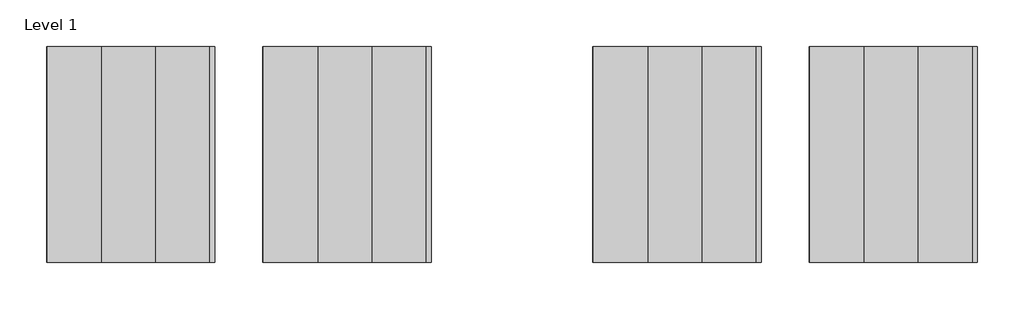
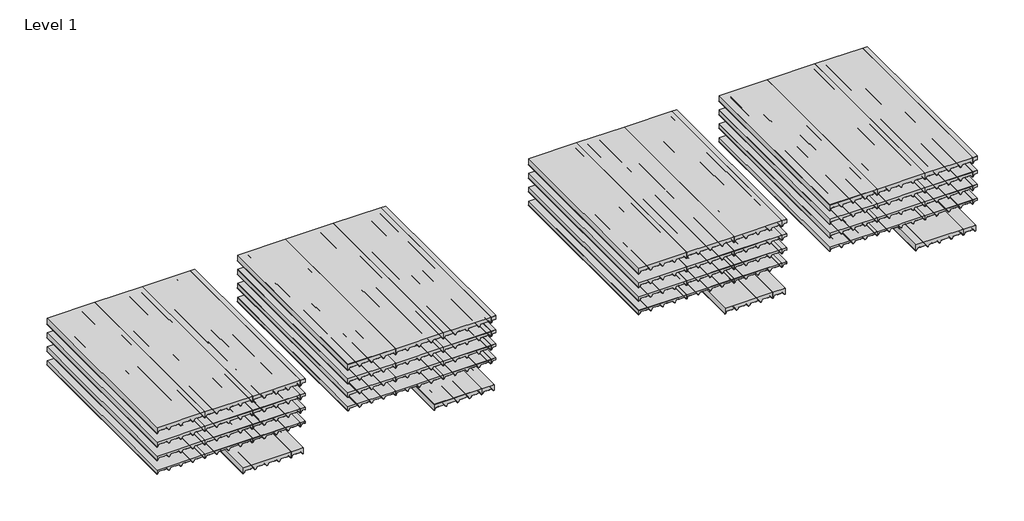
# One storey: 72 plates.
"""IFC4 building model written with IfcOpenShell, lengths in millimetres."""

from ifc_helpers import new_model, si_unit, origin, place, context, project, spatial, transform, mapped, element, save
from components import cubierta_deck_curtain_panel_pvc_9965c7ad, cubierta_deck_curtain_panel_pvc_f810d4f0, cubierta_deck_curtain_panel_pvc_c78e96fc, cubierta_deck_curtain_panel_pvc_4e866324, cubierta_deck_curtain_panel_pvc_440a0394, cubierta_deck_curtain_panel_pvc_e19e9fe5, cubierta_deck_curtain_panel_pvc_17cb436e, cubierta_deck_curtain_panel_pvc_dbc530cd, cubierta_deck_curtain_panel_pvc_6be13019, cubierta_deck_curtain_panel_pvc_baeb70c4

model = new_model("IFC4")

# Units and contexts
model_context = context("Model", 3, world=origin())
ifc_project = project(units=[si_unit("LENGTHUNIT", "METRE", prefix="MILLI")], contexts=[model_context])

# Site, building, storey
site = spatial("IfcSite", under=ifc_project)
building = spatial("IfcBuilding", under=site)
storey = spatial("IfcBuildingStorey", under=building, Name="Level 1", Elevation=0.0)

# Plates
placement = place(None, origin())
cubierta_deck_curtain_panel_pvc_shape = cubierta_deck_curtain_panel_pvc_9965c7ad(model_context)
element("IfcPlate", 1, ObjectType="Cubierta-Deck_Curtain-Panel-PVC : ACH_Cubierta-Deck_MW_80 mm", at=placement, inside=storey, context=model_context, shape_type="MappedRepresentation", body=[
    mapped(cubierta_deck_curtain_panel_pvc_shape, transform((-5418.7651938, -3830.5491567, 500.0), x_axis=(1.0, 0.0, 0.0), y_axis=(0.0, 0.0, -1.0), z_axis=(0.0, 1.0, 0.0))),
])
element("IfcPlate", 2, ObjectType="Cubierta-Deck_Curtain-Panel-PVC : ACH_Cubierta-Deck_MW_80 mm", at=placement, inside=storey, context=model_context, shape_type="MappedRepresentation", body=[
    mapped(cubierta_deck_curtain_panel_pvc_shape, transform((-4418.7651938, -3830.5491567, 500.0), x_axis=(1.0, 0.0, 0.0), y_axis=(0.0, 0.0, -1.0), z_axis=(0.0, 1.0, 0.0))),
])
element("IfcPlate", 3, ObjectType="Cubierta-Deck_Curtain-Panel-PVC : ACH_Cubierta-Deck_MW_80 mm", at=placement, inside=storey, context=model_context, shape_type="MappedRepresentation", body=[
    mapped(cubierta_deck_curtain_panel_pvc_shape, transform((-3418.7651938, -3830.5491567, 500.0), x_axis=(1.0, 0.0, 0.0), y_axis=(0.0, 0.0, -1.0), z_axis=(0.0, 1.0, 0.0))),
])
cubierta_deck_curtain_panel_pvc_2_shape = cubierta_deck_curtain_panel_pvc_f810d4f0(model_context)
element("IfcPlate", 4, ObjectType="Cubierta-Deck_Curtain-Panel-PVC : ACH_Cubierta-Deck_MW_80 mm", at=placement, inside=storey, context=model_context, shape_type="MappedRepresentation", body=[
    mapped(cubierta_deck_curtain_panel_pvc_2_shape, transform((-2868.7651938, -3830.5491567, 500.0), x_axis=(1.0, 0.0, 0.0), y_axis=(0.0, 0.0, -1.0), z_axis=(0.0, 1.0, 0.0))),
])
cubierta_deck_curtain_panel_pvc_3_shape = cubierta_deck_curtain_panel_pvc_c78e96fc(model_context)
element("IfcPlate", 5, ObjectType="Cubierta-Deck_Curtain-Panel-PVC : ACH_Cubierta-Deck_MW_60 mm", at=placement, inside=storey, context=model_context, shape_type="MappedRepresentation", body=[
    mapped(cubierta_deck_curtain_panel_pvc_3_shape, transform((-5418.7651938, -3830.5491567, 200.0), x_axis=(1.0, 0.0, 0.0), y_axis=(0.0, 0.0, -1.0), z_axis=(0.0, 1.0, 0.0))),
])
element("IfcPlate", 6, ObjectType="Cubierta-Deck_Curtain-Panel-PVC : ACH_Cubierta-Deck_MW_60 mm", at=placement, inside=storey, context=model_context, shape_type="MappedRepresentation", body=[
    mapped(cubierta_deck_curtain_panel_pvc_3_shape, transform((-4418.7651938, -3830.5491567, 200.0), x_axis=(1.0, 0.0, 0.0), y_axis=(0.0, 0.0, -1.0), z_axis=(0.0, 1.0, 0.0))),
])
element("IfcPlate", 7, ObjectType="Cubierta-Deck_Curtain-Panel-PVC : ACH_Cubierta-Deck_MW_60 mm", at=placement, inside=storey, context=model_context, shape_type="MappedRepresentation", body=[
    mapped(cubierta_deck_curtain_panel_pvc_3_shape, transform((-3418.7651938, -3830.5491567, 200.0), x_axis=(1.0, 0.0, 0.0), y_axis=(0.0, 0.0, -1.0), z_axis=(0.0, 1.0, 0.0))),
])
cubierta_deck_curtain_panel_pvc_4_shape = cubierta_deck_curtain_panel_pvc_4e866324(model_context)
element("IfcPlate", 8, ObjectType="Cubierta-Deck_Curtain-Panel-PVC : ACH_Cubierta-Deck_MW_60 mm", at=placement, inside=storey, context=model_context, shape_type="MappedRepresentation", body=[
    mapped(cubierta_deck_curtain_panel_pvc_4_shape, transform((-2868.7651938, -3830.5491567, 200.0), x_axis=(1.0, 0.0, 0.0), y_axis=(0.0, 0.0, -1.0), z_axis=(0.0, 1.0, 0.0))),
])
cubierta_deck_curtain_panel_pvc_5_shape = cubierta_deck_curtain_panel_pvc_440a0394(model_context)
element("IfcPlate", 9, ObjectType="Cubierta-Deck_Curtain-Panel-PVC : ACH_Cubierta-Deck_MW_50 mm", at=placement, inside=storey, context=model_context, shape_type="MappedRepresentation", body=[
    mapped(cubierta_deck_curtain_panel_pvc_5_shape, transform((-5418.7651938, -3830.5491567, -100.0), x_axis=(1.0, 0.0, 0.0), y_axis=(0.0, 0.0, -1.0), z_axis=(0.0, 1.0, 0.0))),
])
element("IfcPlate", 10, ObjectType="Cubierta-Deck_Curtain-Panel-PVC : ACH_Cubierta-Deck_MW_50 mm", at=placement, inside=storey, context=model_context, shape_type="MappedRepresentation", body=[
    mapped(cubierta_deck_curtain_panel_pvc_5_shape, transform((-4418.7651938, -3830.5491567, -100.0), x_axis=(1.0, 0.0, 0.0), y_axis=(0.0, 0.0, -1.0), z_axis=(0.0, 1.0, 0.0))),
])
element("IfcPlate", 11, ObjectType="Cubierta-Deck_Curtain-Panel-PVC : ACH_Cubierta-Deck_MW_50 mm", at=placement, inside=storey, context=model_context, shape_type="MappedRepresentation", body=[
    mapped(cubierta_deck_curtain_panel_pvc_5_shape, transform((-3418.7651938, -3830.5491567, -100.0), x_axis=(1.0, 0.0, 0.0), y_axis=(0.0, 0.0, -1.0), z_axis=(0.0, 1.0, 0.0))),
])
cubierta_deck_curtain_panel_pvc_6_shape = cubierta_deck_curtain_panel_pvc_e19e9fe5(model_context)
element("IfcPlate", 12, ObjectType="Cubierta-Deck_Curtain-Panel-PVC : ACH_Cubierta-Deck_MW_50 mm", at=placement, inside=storey, context=model_context, shape_type="MappedRepresentation", body=[
    mapped(cubierta_deck_curtain_panel_pvc_6_shape, transform((-2868.7651938, -3830.5491567, -100.0), x_axis=(1.0, 0.0, 0.0), y_axis=(0.0, 0.0, -1.0), z_axis=(0.0, 1.0, 0.0))),
])
cubierta_deck_curtain_panel_pvc_7_shape = cubierta_deck_curtain_panel_pvc_17cb436e(model_context)
element("IfcPlate", 13, ObjectType="Cubierta-Deck_Curtain-Panel-PVC : ACH_Cubierta-Deck_MW_40 mm", at=placement, inside=storey, context=model_context, shape_type="MappedRepresentation", body=[
    mapped(cubierta_deck_curtain_panel_pvc_7_shape, transform((-5418.7651938, -3830.5491567, -400.0), x_axis=(1.0, 0.0, 0.0), y_axis=(0.0, 0.0, -1.0), z_axis=(0.0, 1.0, 0.0))),
])
element("IfcPlate", 14, ObjectType="Cubierta-Deck_Curtain-Panel-PVC : ACH_Cubierta-Deck_MW_40 mm", at=placement, inside=storey, context=model_context, shape_type="MappedRepresentation", body=[
    mapped(cubierta_deck_curtain_panel_pvc_7_shape, transform((-4418.7651938, -3830.5491567, -400.0), x_axis=(1.0, 0.0, 0.0), y_axis=(0.0, 0.0, -1.0), z_axis=(0.0, 1.0, 0.0))),
])
element("IfcPlate", 15, ObjectType="Cubierta-Deck_Curtain-Panel-PVC : ACH_Cubierta-Deck_MW_40 mm", at=placement, inside=storey, context=model_context, shape_type="MappedRepresentation", body=[
    mapped(cubierta_deck_curtain_panel_pvc_7_shape, transform((-3418.7651938, -3830.5491567, -400.0), x_axis=(1.0, 0.0, 0.0), y_axis=(0.0, 0.0, -1.0), z_axis=(0.0, 1.0, 0.0))),
])
cubierta_deck_curtain_panel_pvc_8_shape = cubierta_deck_curtain_panel_pvc_dbc530cd(model_context)
element("IfcPlate", 16, ObjectType="Cubierta-Deck_Curtain-Panel-PVC : ACH_Cubierta-Deck_MW_40 mm", at=placement, inside=storey, context=model_context, shape_type="MappedRepresentation", body=[
    mapped(cubierta_deck_curtain_panel_pvc_8_shape, transform((-2868.7651938, -3830.5491567, -400.0), x_axis=(1.0, 0.0, 0.0), y_axis=(0.0, 0.0, -1.0), z_axis=(0.0, 1.0, 0.0))),
])
cubierta_deck_curtain_panel_pvc_9_shape = cubierta_deck_curtain_panel_pvc_6be13019(model_context)
element("IfcPlate", 17, ObjectType="Cubierta-Deck_Curtain-Panel-PVC : ACH_Cubierta-Deck_MW_80 mm", at=placement, inside=storey, context=model_context, shape_type="MappedRepresentation", body=[
    mapped(cubierta_deck_curtain_panel_pvc_9_shape, transform((-3611.8476703, -3830.5491567, -1018.8575325), x_axis=(1.0, 0.0, 0.0), y_axis=(0.0, 0.0, -1.0), z_axis=(0.0, 1.0, 0.0))),
])
cubierta_deck_curtain_panel_pvc_10_shape = cubierta_deck_curtain_panel_pvc_baeb70c4(model_context)
element("IfcPlate", 18, ObjectType="Cubierta-Deck_Curtain-Panel-PVC : ACH_Cubierta-Deck_MW_80 mm", at=placement, inside=storey, context=model_context, shape_type="MappedRepresentation", body=[
    mapped(cubierta_deck_curtain_panel_pvc_10_shape, transform((-2981.8476703, -3830.5491567, -1018.8575325), x_axis=(1.0, 0.0, 0.0), y_axis=(0.0, 0.0, -1.0), z_axis=(0.0, 1.0, 0.0))),
])
element("IfcPlate", 19, ObjectType="Cubierta-Deck_Curtain-Panel-PVC : ACH_Cubierta-Deck_PIR_40 mm", at=placement, inside=storey, context=model_context, shape_type="MappedRepresentation", body=[
    mapped(cubierta_deck_curtain_panel_pvc_7_shape, transform((-1418.7651938, -3830.5491567, -400.0), x_axis=(1.0, 0.0, 0.0), y_axis=(0.0, 0.0, -1.0), z_axis=(0.0, 1.0, 0.0))),
])
element("IfcPlate", 20, ObjectType="Cubierta-Deck_Curtain-Panel-PVC : ACH_Cubierta-Deck_PIR_40 mm", at=placement, inside=storey, context=model_context, shape_type="MappedRepresentation", body=[
    mapped(cubierta_deck_curtain_panel_pvc_7_shape, transform((-418.7651938, -3830.5491567, -400.0), x_axis=(1.0, 0.0, 0.0), y_axis=(0.0, 0.0, -1.0), z_axis=(0.0, 1.0, 0.0))),
])
element("IfcPlate", 21, ObjectType="Cubierta-Deck_Curtain-Panel-PVC : ACH_Cubierta-Deck_PIR_40 mm", at=placement, inside=storey, context=model_context, shape_type="MappedRepresentation", body=[
    mapped(cubierta_deck_curtain_panel_pvc_7_shape, transform((581.2348062, -3830.5491567, -400.0), x_axis=(1.0, 0.0, 0.0), y_axis=(0.0, 0.0, -1.0), z_axis=(0.0, 1.0, 0.0))),
])
element("IfcPlate", 22, ObjectType="Cubierta-Deck_Curtain-Panel-PVC : ACH_Cubierta-Deck_PIR_40 mm", at=placement, inside=storey, context=model_context, shape_type="MappedRepresentation", body=[
    mapped(cubierta_deck_curtain_panel_pvc_8_shape, transform((1131.2348062, -3830.5491567, -400.0), x_axis=(1.0, 0.0, 0.0), y_axis=(0.0, 0.0, -1.0), z_axis=(0.0, 1.0, 0.0))),
])
element("IfcPlate", 23, ObjectType="Cubierta-Deck_Curtain-Panel-PVC : ACH_Cubierta-Deck_PIR_50 mm", at=placement, inside=storey, context=model_context, shape_type="MappedRepresentation", body=[
    mapped(cubierta_deck_curtain_panel_pvc_5_shape, transform((-1418.7651938, -3830.5491567, -100.0), x_axis=(1.0, 0.0, 0.0), y_axis=(0.0, 0.0, -1.0), z_axis=(0.0, 1.0, 0.0))),
])
element("IfcPlate", 24, ObjectType="Cubierta-Deck_Curtain-Panel-PVC : ACH_Cubierta-Deck_PIR_50 mm", at=placement, inside=storey, context=model_context, shape_type="MappedRepresentation", body=[
    mapped(cubierta_deck_curtain_panel_pvc_5_shape, transform((-418.7651938, -3830.5491567, -100.0), x_axis=(1.0, 0.0, 0.0), y_axis=(0.0, 0.0, -1.0), z_axis=(0.0, 1.0, 0.0))),
])
element("IfcPlate", 25, ObjectType="Cubierta-Deck_Curtain-Panel-PVC : ACH_Cubierta-Deck_PIR_50 mm", at=placement, inside=storey, context=model_context, shape_type="MappedRepresentation", body=[
    mapped(cubierta_deck_curtain_panel_pvc_5_shape, transform((581.2348062, -3830.5491567, -100.0), x_axis=(1.0, 0.0, 0.0), y_axis=(0.0, 0.0, -1.0), z_axis=(0.0, 1.0, 0.0))),
])
element("IfcPlate", 26, ObjectType="Cubierta-Deck_Curtain-Panel-PVC : ACH_Cubierta-Deck_PIR_50 mm", at=placement, inside=storey, context=model_context, shape_type="MappedRepresentation", body=[
    mapped(cubierta_deck_curtain_panel_pvc_6_shape, transform((1131.2348062, -3830.5491567, -100.0), x_axis=(1.0, 0.0, 0.0), y_axis=(0.0, 0.0, -1.0), z_axis=(0.0, 1.0, 0.0))),
])
element("IfcPlate", 27, ObjectType="Cubierta-Deck_Curtain-Panel-PVC : ACH_Cubierta-Deck_PIR_60 mm", at=placement, inside=storey, context=model_context, shape_type="MappedRepresentation", body=[
    mapped(cubierta_deck_curtain_panel_pvc_3_shape, transform((-1418.7651938, -3830.5491567, 200.0), x_axis=(1.0, 0.0, 0.0), y_axis=(0.0, 0.0, -1.0), z_axis=(0.0, 1.0, 0.0))),
])
element("IfcPlate", 28, ObjectType="Cubierta-Deck_Curtain-Panel-PVC : ACH_Cubierta-Deck_PIR_60 mm", at=placement, inside=storey, context=model_context, shape_type="MappedRepresentation", body=[
    mapped(cubierta_deck_curtain_panel_pvc_3_shape, transform((-418.7651938, -3830.5491567, 200.0), x_axis=(1.0, 0.0, 0.0), y_axis=(0.0, 0.0, -1.0), z_axis=(0.0, 1.0, 0.0))),
])
element("IfcPlate", 29, ObjectType="Cubierta-Deck_Curtain-Panel-PVC : ACH_Cubierta-Deck_PIR_60 mm", at=placement, inside=storey, context=model_context, shape_type="MappedRepresentation", body=[
    mapped(cubierta_deck_curtain_panel_pvc_3_shape, transform((581.2348062, -3830.5491567, 200.0), x_axis=(1.0, 0.0, 0.0), y_axis=(0.0, 0.0, -1.0), z_axis=(0.0, 1.0, 0.0))),
])
element("IfcPlate", 30, ObjectType="Cubierta-Deck_Curtain-Panel-PVC : ACH_Cubierta-Deck_PIR_60 mm", at=placement, inside=storey, context=model_context, shape_type="MappedRepresentation", body=[
    mapped(cubierta_deck_curtain_panel_pvc_4_shape, transform((1131.2348062, -3830.5491567, 200.0), x_axis=(1.0, 0.0, 0.0), y_axis=(0.0, 0.0, -1.0), z_axis=(0.0, 1.0, 0.0))),
])
element("IfcPlate", 31, ObjectType="Cubierta-Deck_Curtain-Panel-PVC : ACH_Cubierta-Deck_PIR_80 mm", at=placement, inside=storey, context=model_context, shape_type="MappedRepresentation", body=[
    mapped(cubierta_deck_curtain_panel_pvc_shape, transform((-1418.7651938, -3830.5491567, 500.0), x_axis=(1.0, 0.0, 0.0), y_axis=(0.0, 0.0, -1.0), z_axis=(0.0, 1.0, 0.0))),
])
element("IfcPlate", 32, ObjectType="Cubierta-Deck_Curtain-Panel-PVC : ACH_Cubierta-Deck_PIR_80 mm", at=placement, inside=storey, context=model_context, shape_type="MappedRepresentation", body=[
    mapped(cubierta_deck_curtain_panel_pvc_shape, transform((-418.7651938, -3830.5491567, 500.0), x_axis=(1.0, 0.0, 0.0), y_axis=(0.0, 0.0, -1.0), z_axis=(0.0, 1.0, 0.0))),
])
element("IfcPlate", 33, ObjectType="Cubierta-Deck_Curtain-Panel-PVC : ACH_Cubierta-Deck_PIR_80 mm", at=placement, inside=storey, context=model_context, shape_type="MappedRepresentation", body=[
    mapped(cubierta_deck_curtain_panel_pvc_shape, transform((581.2348062, -3830.5491567, 500.0), x_axis=(1.0, 0.0, 0.0), y_axis=(0.0, 0.0, -1.0), z_axis=(0.0, 1.0, 0.0))),
])
element("IfcPlate", 34, ObjectType="Cubierta-Deck_Curtain-Panel-PVC : ACH_Cubierta-Deck_PIR_80 mm", at=placement, inside=storey, context=model_context, shape_type="MappedRepresentation", body=[
    mapped(cubierta_deck_curtain_panel_pvc_2_shape, transform((1131.2348062, -3830.5491567, 500.0), x_axis=(1.0, 0.0, 0.0), y_axis=(0.0, 0.0, -1.0), z_axis=(0.0, 1.0, 0.0))),
])
element("IfcPlate", 35, ObjectType="Cubierta-Deck_Curtain-Panel-PVC : ACH_Cubierta-Deck_PIR_80 mm", at=placement, inside=storey, context=model_context, shape_type="MappedRepresentation", body=[
    mapped(cubierta_deck_curtain_panel_pvc_9_shape, transform((388.1523297, -3830.5491567, -1018.8575325), x_axis=(1.0, 0.0, 0.0), y_axis=(0.0, 0.0, -1.0), z_axis=(0.0, 1.0, 0.0))),
])
element("IfcPlate", 36, ObjectType="Cubierta-Deck_Curtain-Panel-PVC : ACH_Cubierta-Deck_PIR_80 mm", at=placement, inside=storey, context=model_context, shape_type="MappedRepresentation", body=[
    mapped(cubierta_deck_curtain_panel_pvc_10_shape, transform((1018.1523297, -3830.5491567, -1018.8575325), x_axis=(1.0, 0.0, 0.0), y_axis=(0.0, 0.0, -1.0), z_axis=(0.0, 1.0, 0.0))),
])
element("IfcPlate", 37, ObjectType="Cubierta-Deck_Curtain-Panel-TPO : ACH_Cubierta-Deck_MW_80 mm", at=placement, inside=storey, context=model_context, shape_type="MappedRepresentation", body=[
    mapped(cubierta_deck_curtain_panel_pvc_shape, transform((-15518.7651938, -3830.5491567, 500.0), x_axis=(1.0, 0.0, 0.0), y_axis=(0.0, 0.0, -1.0), z_axis=(0.0, 1.0, 0.0))),
])
element("IfcPlate", 38, ObjectType="Cubierta-Deck_Curtain-Panel-TPO : ACH_Cubierta-Deck_MW_80 mm", at=placement, inside=storey, context=model_context, shape_type="MappedRepresentation", body=[
    mapped(cubierta_deck_curtain_panel_pvc_shape, transform((-14518.7651938, -3830.5491567, 500.0), x_axis=(1.0, 0.0, 0.0), y_axis=(0.0, 0.0, -1.0), z_axis=(0.0, 1.0, 0.0))),
])
element("IfcPlate", 39, ObjectType="Cubierta-Deck_Curtain-Panel-TPO : ACH_Cubierta-Deck_MW_80 mm", at=placement, inside=storey, context=model_context, shape_type="MappedRepresentation", body=[
    mapped(cubierta_deck_curtain_panel_pvc_shape, transform((-13518.7651938, -3830.5491567, 500.0), x_axis=(1.0, 0.0, 0.0), y_axis=(0.0, 0.0, -1.0), z_axis=(0.0, 1.0, 0.0))),
])
element("IfcPlate", 40, ObjectType="Cubierta-Deck_Curtain-Panel-TPO : ACH_Cubierta-Deck_MW_80 mm", at=placement, inside=storey, context=model_context, shape_type="MappedRepresentation", body=[
    mapped(cubierta_deck_curtain_panel_pvc_2_shape, transform((-12968.7651938, -3830.5491567, 500.0), x_axis=(1.0, 0.0, 0.0), y_axis=(0.0, 0.0, -1.0), z_axis=(0.0, 1.0, 0.0))),
])
element("IfcPlate", 41, ObjectType="Cubierta-Deck_Curtain-Panel-TPO : ACH_Cubierta-Deck_MW_60 mm", at=placement, inside=storey, context=model_context, shape_type="MappedRepresentation", body=[
    mapped(cubierta_deck_curtain_panel_pvc_3_shape, transform((-15518.7651938, -3830.5491567, 200.0), x_axis=(1.0, 0.0, 0.0), y_axis=(0.0, 0.0, -1.0), z_axis=(0.0, 1.0, 0.0))),
])
element("IfcPlate", 42, ObjectType="Cubierta-Deck_Curtain-Panel-TPO : ACH_Cubierta-Deck_MW_60 mm", at=placement, inside=storey, context=model_context, shape_type="MappedRepresentation", body=[
    mapped(cubierta_deck_curtain_panel_pvc_3_shape, transform((-14518.7651938, -3830.5491567, 200.0), x_axis=(1.0, 0.0, 0.0), y_axis=(0.0, 0.0, -1.0), z_axis=(0.0, 1.0, 0.0))),
])
element("IfcPlate", 43, ObjectType="Cubierta-Deck_Curtain-Panel-TPO : ACH_Cubierta-Deck_MW_60 mm", at=placement, inside=storey, context=model_context, shape_type="MappedRepresentation", body=[
    mapped(cubierta_deck_curtain_panel_pvc_3_shape, transform((-13518.7651938, -3830.5491567, 200.0), x_axis=(1.0, 0.0, 0.0), y_axis=(0.0, 0.0, -1.0), z_axis=(0.0, 1.0, 0.0))),
])
element("IfcPlate", 44, ObjectType="Cubierta-Deck_Curtain-Panel-TPO : ACH_Cubierta-Deck_MW_60 mm", at=placement, inside=storey, context=model_context, shape_type="MappedRepresentation", body=[
    mapped(cubierta_deck_curtain_panel_pvc_4_shape, transform((-12968.7651938, -3830.5491567, 200.0), x_axis=(1.0, 0.0, 0.0), y_axis=(0.0, 0.0, -1.0), z_axis=(0.0, 1.0, 0.0))),
])
element("IfcPlate", 45, ObjectType="Cubierta-Deck_Curtain-Panel-TPO : ACH_Cubierta-Deck_MW_50 mm", at=placement, inside=storey, context=model_context, shape_type="MappedRepresentation", body=[
    mapped(cubierta_deck_curtain_panel_pvc_5_shape, transform((-15518.7651938, -3830.5491567, -100.0), x_axis=(1.0, 0.0, 0.0), y_axis=(0.0, 0.0, -1.0), z_axis=(0.0, 1.0, 0.0))),
])
element("IfcPlate", 46, ObjectType="Cubierta-Deck_Curtain-Panel-TPO : ACH_Cubierta-Deck_MW_50 mm", at=placement, inside=storey, context=model_context, shape_type="MappedRepresentation", body=[
    mapped(cubierta_deck_curtain_panel_pvc_5_shape, transform((-14518.7651938, -3830.5491567, -100.0), x_axis=(1.0, 0.0, 0.0), y_axis=(0.0, 0.0, -1.0), z_axis=(0.0, 1.0, 0.0))),
])
element("IfcPlate", 47, ObjectType="Cubierta-Deck_Curtain-Panel-TPO : ACH_Cubierta-Deck_MW_50 mm", at=placement, inside=storey, context=model_context, shape_type="MappedRepresentation", body=[
    mapped(cubierta_deck_curtain_panel_pvc_5_shape, transform((-13518.7651938, -3830.5491567, -100.0), x_axis=(1.0, 0.0, 0.0), y_axis=(0.0, 0.0, -1.0), z_axis=(0.0, 1.0, 0.0))),
])
element("IfcPlate", 48, ObjectType="Cubierta-Deck_Curtain-Panel-TPO : ACH_Cubierta-Deck_MW_50 mm", at=placement, inside=storey, context=model_context, shape_type="MappedRepresentation", body=[
    mapped(cubierta_deck_curtain_panel_pvc_6_shape, transform((-12968.7651938, -3830.5491567, -100.0), x_axis=(1.0, 0.0, 0.0), y_axis=(0.0, 0.0, -1.0), z_axis=(0.0, 1.0, 0.0))),
])
element("IfcPlate", 49, ObjectType="Cubierta-Deck_Curtain-Panel-TPO : ACH_Cubierta-Deck_MW_40 mm", at=placement, inside=storey, context=model_context, shape_type="MappedRepresentation", body=[
    mapped(cubierta_deck_curtain_panel_pvc_7_shape, transform((-15518.7651938, -3830.5491567, -400.0), x_axis=(1.0, 0.0, 0.0), y_axis=(0.0, 0.0, -1.0), z_axis=(0.0, 1.0, 0.0))),
])
element("IfcPlate", 50, ObjectType="Cubierta-Deck_Curtain-Panel-TPO : ACH_Cubierta-Deck_MW_40 mm", at=placement, inside=storey, context=model_context, shape_type="MappedRepresentation", body=[
    mapped(cubierta_deck_curtain_panel_pvc_7_shape, transform((-14518.7651938, -3830.5491567, -400.0), x_axis=(1.0, 0.0, 0.0), y_axis=(0.0, 0.0, -1.0), z_axis=(0.0, 1.0, 0.0))),
])
element("IfcPlate", 51, ObjectType="Cubierta-Deck_Curtain-Panel-TPO : ACH_Cubierta-Deck_MW_40 mm", at=placement, inside=storey, context=model_context, shape_type="MappedRepresentation", body=[
    mapped(cubierta_deck_curtain_panel_pvc_7_shape, transform((-13518.7651938, -3830.5491567, -400.0), x_axis=(1.0, 0.0, 0.0), y_axis=(0.0, 0.0, -1.0), z_axis=(0.0, 1.0, 0.0))),
])
element("IfcPlate", 52, ObjectType="Cubierta-Deck_Curtain-Panel-TPO : ACH_Cubierta-Deck_MW_40 mm", at=placement, inside=storey, context=model_context, shape_type="MappedRepresentation", body=[
    mapped(cubierta_deck_curtain_panel_pvc_8_shape, transform((-12968.7651938, -3830.5491567, -400.0), x_axis=(1.0, 0.0, 0.0), y_axis=(0.0, 0.0, -1.0), z_axis=(0.0, 1.0, 0.0))),
])
element("IfcPlate", 53, ObjectType="Cubierta-Deck_Curtain-Panel-TPO : ACH_Cubierta-Deck_MW_80 mm", at=placement, inside=storey, context=model_context, shape_type="MappedRepresentation", body=[
    mapped(cubierta_deck_curtain_panel_pvc_9_shape, transform((-13711.8476703, -3830.5491567, -1018.8575325), x_axis=(1.0, 0.0, 0.0), y_axis=(0.0, 0.0, -1.0), z_axis=(0.0, 1.0, 0.0))),
])
element("IfcPlate", 54, ObjectType="Cubierta-Deck_Curtain-Panel-TPO : ACH_Cubierta-Deck_MW_80 mm", at=placement, inside=storey, context=model_context, shape_type="MappedRepresentation", body=[
    mapped(cubierta_deck_curtain_panel_pvc_10_shape, transform((-13081.8476703, -3830.5491567, -1018.8575325), x_axis=(1.0, 0.0, 0.0), y_axis=(0.0, 0.0, -1.0), z_axis=(0.0, 1.0, 0.0))),
])
element("IfcPlate", 55, ObjectType="Cubierta-Deck_Curtain-Panel-TPO : ACH_Cubierta-Deck_PIR_40 mm", at=placement, inside=storey, context=model_context, shape_type="MappedRepresentation", body=[
    mapped(cubierta_deck_curtain_panel_pvc_7_shape, transform((-11518.7651938, -3830.5491567, -400.0), x_axis=(1.0, 0.0, 0.0), y_axis=(0.0, 0.0, -1.0), z_axis=(0.0, 1.0, 0.0))),
])
element("IfcPlate", 56, ObjectType="Cubierta-Deck_Curtain-Panel-TPO : ACH_Cubierta-Deck_PIR_40 mm", at=placement, inside=storey, context=model_context, shape_type="MappedRepresentation", body=[
    mapped(cubierta_deck_curtain_panel_pvc_7_shape, transform((-10518.7651938, -3830.5491567, -400.0), x_axis=(1.0, 0.0, 0.0), y_axis=(0.0, 0.0, -1.0), z_axis=(0.0, 1.0, 0.0))),
])
element("IfcPlate", 57, ObjectType="Cubierta-Deck_Curtain-Panel-TPO : ACH_Cubierta-Deck_PIR_40 mm", at=placement, inside=storey, context=model_context, shape_type="MappedRepresentation", body=[
    mapped(cubierta_deck_curtain_panel_pvc_7_shape, transform((-9518.7651938, -3830.5491567, -400.0), x_axis=(1.0, 0.0, 0.0), y_axis=(0.0, 0.0, -1.0), z_axis=(0.0, 1.0, 0.0))),
])
element("IfcPlate", 58, ObjectType="Cubierta-Deck_Curtain-Panel-TPO : ACH_Cubierta-Deck_PIR_40 mm", at=placement, inside=storey, context=model_context, shape_type="MappedRepresentation", body=[
    mapped(cubierta_deck_curtain_panel_pvc_8_shape, transform((-8968.7651938, -3830.5491567, -400.0), x_axis=(1.0, 0.0, 0.0), y_axis=(0.0, 0.0, -1.0), z_axis=(0.0, 1.0, 0.0))),
])
element("IfcPlate", 59, ObjectType="Cubierta-Deck_Curtain-Panel-TPO : ACH_Cubierta-Deck_PIR_50 mm", at=placement, inside=storey, context=model_context, shape_type="MappedRepresentation", body=[
    mapped(cubierta_deck_curtain_panel_pvc_5_shape, transform((-11518.7651938, -3830.5491567, -100.0), x_axis=(1.0, 0.0, 0.0), y_axis=(0.0, 0.0, -1.0), z_axis=(0.0, 1.0, 0.0))),
])
element("IfcPlate", 60, ObjectType="Cubierta-Deck_Curtain-Panel-TPO : ACH_Cubierta-Deck_PIR_50 mm", at=placement, inside=storey, context=model_context, shape_type="MappedRepresentation", body=[
    mapped(cubierta_deck_curtain_panel_pvc_5_shape, transform((-10518.7651938, -3830.5491567, -100.0), x_axis=(1.0, 0.0, 0.0), y_axis=(0.0, 0.0, -1.0), z_axis=(0.0, 1.0, 0.0))),
])
element("IfcPlate", 61, ObjectType="Cubierta-Deck_Curtain-Panel-TPO : ACH_Cubierta-Deck_PIR_50 mm", at=placement, inside=storey, context=model_context, shape_type="MappedRepresentation", body=[
    mapped(cubierta_deck_curtain_panel_pvc_5_shape, transform((-9518.7651938, -3830.5491567, -100.0), x_axis=(1.0, 0.0, 0.0), y_axis=(0.0, 0.0, -1.0), z_axis=(0.0, 1.0, 0.0))),
])
element("IfcPlate", 62, ObjectType="Cubierta-Deck_Curtain-Panel-TPO : ACH_Cubierta-Deck_PIR_50 mm", at=placement, inside=storey, context=model_context, shape_type="MappedRepresentation", body=[
    mapped(cubierta_deck_curtain_panel_pvc_6_shape, transform((-8968.7651938, -3830.5491567, -100.0), x_axis=(1.0, 0.0, 0.0), y_axis=(0.0, 0.0, -1.0), z_axis=(0.0, 1.0, 0.0))),
])
element("IfcPlate", 63, ObjectType="Cubierta-Deck_Curtain-Panel-TPO : ACH_Cubierta-Deck_PIR_60 mm", at=placement, inside=storey, context=model_context, shape_type="MappedRepresentation", body=[
    mapped(cubierta_deck_curtain_panel_pvc_3_shape, transform((-11518.7651938, -3830.5491567, 200.0), x_axis=(1.0, 0.0, 0.0), y_axis=(0.0, 0.0, -1.0), z_axis=(0.0, 1.0, 0.0))),
])
element("IfcPlate", 64, ObjectType="Cubierta-Deck_Curtain-Panel-TPO : ACH_Cubierta-Deck_PIR_60 mm", at=placement, inside=storey, context=model_context, shape_type="MappedRepresentation", body=[
    mapped(cubierta_deck_curtain_panel_pvc_3_shape, transform((-10518.7651938, -3830.5491567, 200.0), x_axis=(1.0, 0.0, 0.0), y_axis=(0.0, 0.0, -1.0), z_axis=(0.0, 1.0, 0.0))),
])
element("IfcPlate", 65, ObjectType="Cubierta-Deck_Curtain-Panel-TPO : ACH_Cubierta-Deck_PIR_60 mm", at=placement, inside=storey, context=model_context, shape_type="MappedRepresentation", body=[
    mapped(cubierta_deck_curtain_panel_pvc_3_shape, transform((-9518.7651938, -3830.5491567, 200.0), x_axis=(1.0, 0.0, 0.0), y_axis=(0.0, 0.0, -1.0), z_axis=(0.0, 1.0, 0.0))),
])
element("IfcPlate", 66, ObjectType="Cubierta-Deck_Curtain-Panel-TPO : ACH_Cubierta-Deck_PIR_60 mm", at=placement, inside=storey, context=model_context, shape_type="MappedRepresentation", body=[
    mapped(cubierta_deck_curtain_panel_pvc_4_shape, transform((-8968.7651938, -3830.5491567, 200.0), x_axis=(1.0, 0.0, 0.0), y_axis=(0.0, 0.0, -1.0), z_axis=(0.0, 1.0, 0.0))),
])
element("IfcPlate", 67, ObjectType="Cubierta-Deck_Curtain-Panel-TPO : ACH_Cubierta-Deck_PIR_80 mm", at=placement, inside=storey, context=model_context, shape_type="MappedRepresentation", body=[
    mapped(cubierta_deck_curtain_panel_pvc_shape, transform((-11518.7651938, -3830.5491567, 500.0), x_axis=(1.0, 0.0, 0.0), y_axis=(0.0, 0.0, -1.0), z_axis=(0.0, 1.0, 0.0))),
])
element("IfcPlate", 68, ObjectType="Cubierta-Deck_Curtain-Panel-TPO : ACH_Cubierta-Deck_PIR_80 mm", at=placement, inside=storey, context=model_context, shape_type="MappedRepresentation", body=[
    mapped(cubierta_deck_curtain_panel_pvc_shape, transform((-10518.7651938, -3830.5491567, 500.0), x_axis=(1.0, 0.0, 0.0), y_axis=(0.0, 0.0, -1.0), z_axis=(0.0, 1.0, 0.0))),
])
element("IfcPlate", 69, ObjectType="Cubierta-Deck_Curtain-Panel-TPO : ACH_Cubierta-Deck_PIR_80 mm", at=placement, inside=storey, context=model_context, shape_type="MappedRepresentation", body=[
    mapped(cubierta_deck_curtain_panel_pvc_shape, transform((-9518.7651938, -3830.5491567, 500.0), x_axis=(1.0, 0.0, 0.0), y_axis=(0.0, 0.0, -1.0), z_axis=(0.0, 1.0, 0.0))),
])
element("IfcPlate", 70, ObjectType="Cubierta-Deck_Curtain-Panel-TPO : ACH_Cubierta-Deck_PIR_80 mm", at=placement, inside=storey, context=model_context, shape_type="MappedRepresentation", body=[
    mapped(cubierta_deck_curtain_panel_pvc_2_shape, transform((-8968.7651938, -3830.5491567, 500.0), x_axis=(1.0, 0.0, 0.0), y_axis=(0.0, 0.0, -1.0), z_axis=(0.0, 1.0, 0.0))),
])
element("IfcPlate", 71, ObjectType="Cubierta-Deck_Curtain-Panel-TPO : ACH_Cubierta-Deck_PIR_80 mm", at=placement, inside=storey, context=model_context, shape_type="MappedRepresentation", body=[
    mapped(cubierta_deck_curtain_panel_pvc_9_shape, transform((-9711.8476703, -3830.5491567, -1018.8575325), x_axis=(1.0, 0.0, 0.0), y_axis=(0.0, 0.0, -1.0), z_axis=(0.0, 1.0, 0.0))),
])
element("IfcPlate", 72, ObjectType="Cubierta-Deck_Curtain-Panel-TPO : ACH_Cubierta-Deck_PIR_80 mm", at=placement, inside=storey, context=model_context, shape_type="MappedRepresentation", body=[
    mapped(cubierta_deck_curtain_panel_pvc_10_shape, transform((-9081.8476703, -3830.5491567, -1018.8575325), x_axis=(1.0, 0.0, 0.0), y_axis=(0.0, 0.0, -1.0), z_axis=(0.0, 1.0, 0.0))),
])

save(model, "model.ifc")
